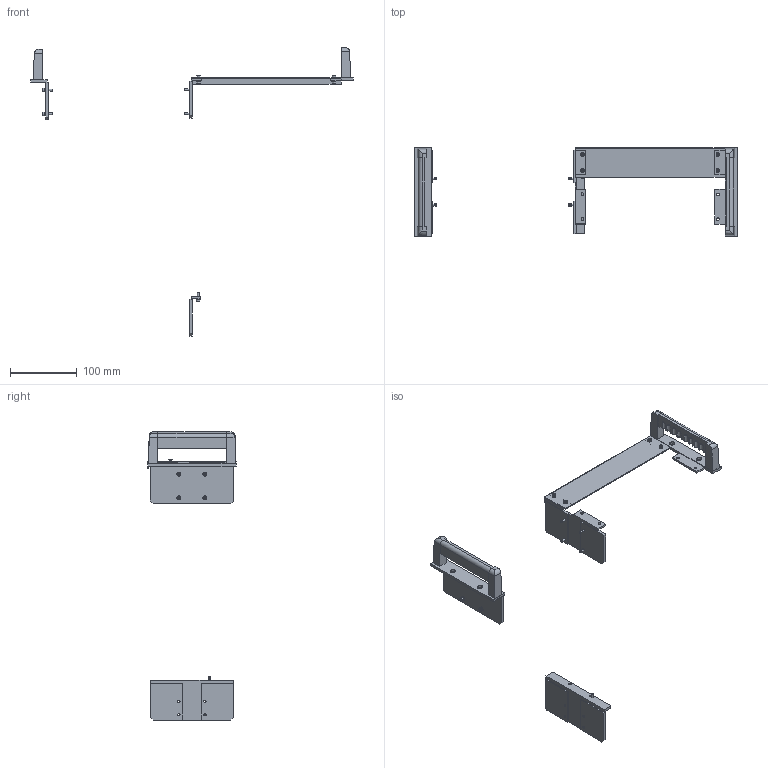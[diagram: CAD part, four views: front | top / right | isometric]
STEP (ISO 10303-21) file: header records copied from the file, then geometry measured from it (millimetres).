
FILE_DESCRIPTION (( 'STEP AP214' ), '1' );
FILE_NAME ('TOE 9532-Rev00_400-320.STEP', '2023-06-27T12:50:33', ( '' ), ( '' ), 'SwSTEP 2.0', 'SolidWorks 2023', '' );
FILE_SCHEMA (( 'AUTOMOTIVE_DESIGN' ));
Length unit declared in the file: millimetre
Products named in the file (18): 7620-0-08-3_19Zoll-Winkel; M5x12_SK_Kreuz; Mutter_DIN-934_M3_A2_Mutter DIN-934 M3-A2; TOE 9532-Rev00_400-320; 1000-4-11-Rev00_19Z_9532 HM_Winkel 3HE-2HE; M3x12_ZK_I6k; 1000-4-10-Rev00_19Z_9532 VM_Winkel 3HE-2HE; Griff-3HE-89200001; U-Scheibe-M3; M3x10_ZK_I6k; Federring-M3; Kontaktscheibe-M3; TOE 9532-3HE-9.5Z_Griff-Rechts_19Z-Winkel; 1000-4-13-Rev00_19Z_9532 Blende_1HE Winkel; 1000-4-12-Rev00_19Z_9532 R_Blech 3HE-2HE; 7620-0-08-3_19Zoll-Winkel_Mit Griff_19Z-Winkel; M3x12_Sk_I6K_DIN7991
Assembly tree (44 placements, depth 3):
  TOE 9532-Rev00_400-320
    7620-0-08-3_19Zoll-Winkel_Mit Griff_19Z-Winkel
      7620-0-08-3_19Zoll-Winkel
      Griff-3HE-89200001
      M5x12_SK_Kreuz  x2
      U-Scheibe-M3  x4
      Federring-M3  x4
      M3x12_ZK_I6k  x4
    1000-4-11-Rev00_19Z_9532 HM_Winkel 3HE-2HE
    1000-4-13-Rev00_19Z_9532 Blende_1HE Winkel
    TOE 9532-3HE-9.5Z_Griff-Rechts_19Z-Winkel
      1000-4-12-Rev00_19Z_9532 R_Blech 3HE-2HE
      Griff-3HE-89200001
      M5x12_SK_Kreuz  x2
    1000-4-10-Rev00_19Z_9532 VM_Winkel 3HE-2HE
      1000-4-10-Rev00_19Z_9532 VM_Winkel 3HE-2HE
      M3x12_Sk_I6K_DIN7991  x4
    M3x10_ZK_I6k  x5
    Kontaktscheibe-M3
    U-Scheibe-M3  x4
    Mutter_DIN-934_M3_A2_Mutter DIN-934 M3-A2  x4
Bounding box: 482.56 x 132.28 x 431.09 mm (x, y, z)
Volume: 199384.2 mm3; surface area: 122510.5 mm2
Topology: 41 solids, 41 shells, 1200 faces, 2933 edges, 1829 vertices
Faces by surface type: plane 632, cylinder 242, cone 234, bspline 56, torus 36
Entity records: 22496 total; most frequent: CARTESIAN_POINT 5582, ORIENTED_EDGE 3416, DIRECTION 3388, EDGE_CURVE 1708, AXIS2_PLACEMENT_3D 1232, VERTEX_POINT 1082, LINE 924, VECTOR 924
